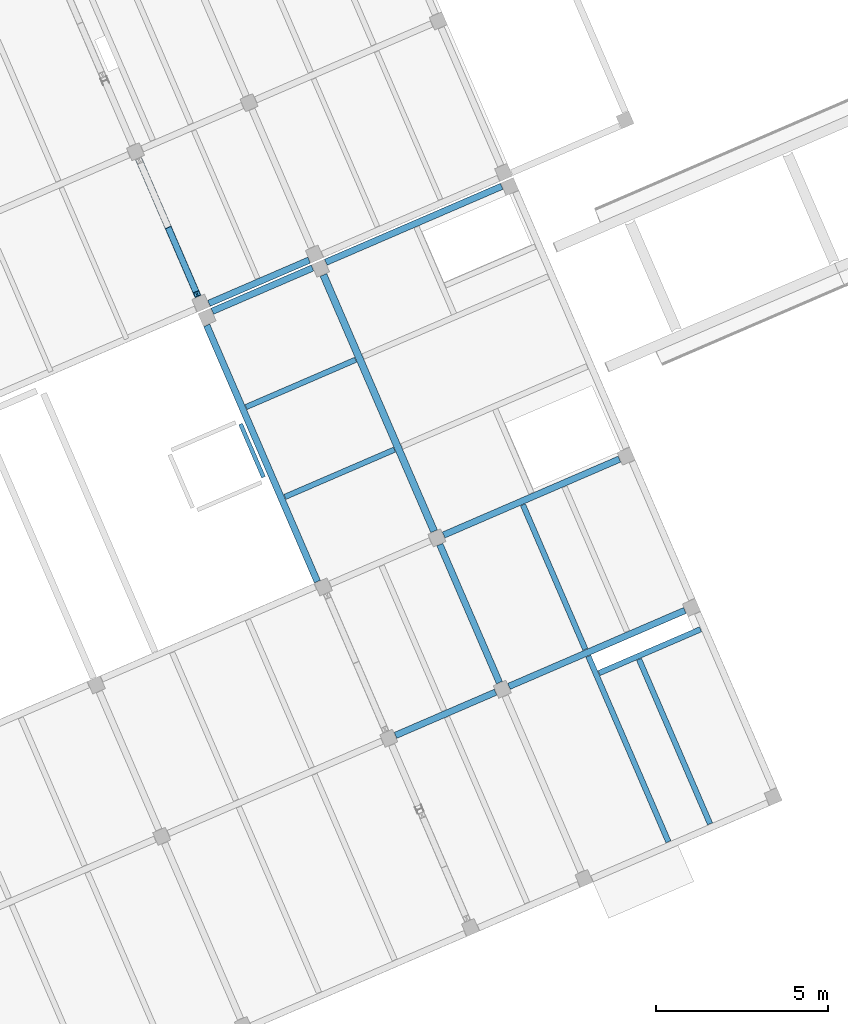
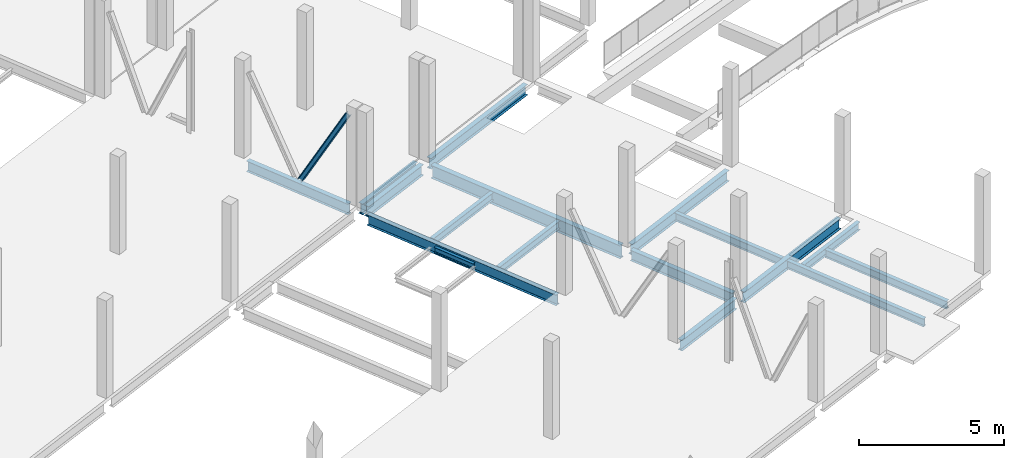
# One storey, part 12 of 24: 17 beams, 1 member.
"""IFC4 building model written with IfcOpenShell, lengths in metres."""

from ifc_helpers import new_model, entity, si_unit, converted_unit, derived_unit, direction, frame, origin, place, context, subcontext, project, spatial, line, arc, indexed_curve, outline, extrude, source, transform, mapped, material, type_object, type_shapes, element, save


model = new_model("IFC4")

# Units and contexts
model_context = context("Model", 3, precision=1e-05, world=origin(), true_north=direction((6.12323399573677e-17, 1.0)))
body_context = subcontext(model_context, "Body", "Model", "MODEL_VIEW")
ifc_project = project(units=[si_unit("LENGTHUNIT", "METRE"), si_unit("AREAUNIT", "SQUARE_METRE"), si_unit("VOLUMEUNIT", "CUBIC_METRE"), converted_unit("PLANEANGLEUNIT", "DEGREE", entity("IfcPlaneAngleMeasure", 0.0174532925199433), si_unit("PLANEANGLEUNIT", "RADIAN"), dimensions=[0, 0, 0, 0, 0, 0, 0]), si_unit("MASSUNIT", "GRAM", prefix="KILO"), derived_unit("MOMENTOFINERTIAUNIT", [(si_unit("LENGTHUNIT", "METRE"), 4)]), derived_unit("LINEARFORCEUNIT", [(si_unit("MASSUNIT", "GRAM", prefix="KILO"), 1), (si_unit("TIMEUNIT", "SECOND"), -2)]), derived_unit("WARPINGCONSTANTUNIT", [(si_unit("LENGTHUNIT", "METRE"), 6)]), derived_unit("THERMALTRANSMITTANCEUNIT", [(si_unit("MASSUNIT", "GRAM", prefix="KILO"), 1), (si_unit("THERMODYNAMICTEMPERATUREUNIT", "KELVIN"), -1), (si_unit("TIMEUNIT", "SECOND"), -3)]), derived_unit("USERDEFINED", [(si_unit("MASSUNIT", "GRAM", prefix="KILO"), 1), (si_unit("TIMEUNIT", "SECOND"), -2), (si_unit("THERMODYNAMICTEMPERATUREUNIT", "KELVIN"), -1)]), derived_unit("THERMALRESISTANCEUNIT", [(si_unit("MASSUNIT", "GRAM", prefix="KILO"), -1), (si_unit("TIMEUNIT", "SECOND"), 3), (si_unit("THERMODYNAMICTEMPERATUREUNIT", "KELVIN"), 1)])], contexts=[model_context])

# Site, building, storey
site_placement = place(None, origin())
site = spatial("IfcSite", under=ifc_project, at=site_placement, Name="Default", CompositionType="ELEMENT")
building_placement = place(site_placement, frame((12.6613425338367, -82.5732315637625, 317.15), z_axis=(0.0, 0.0, 1.0), x_axis=(-0.396377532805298, 0.918087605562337, 0.0)))
building = spatial("IfcBuilding", under=site, at=building_placement, Name="CESFAM Coyhaique", CompositionType="ELEMENT")
storey_placement = place(building_placement, frame((0.0, 0.0, 4.20000000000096)))
storey = spatial("IfcBuildingStorey", under=building, at=storey_placement, Name="Nivel 2", CompositionType="ELEMENT", Elevation=4.20000000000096)

# Beams
ifc_material = material(Name="Steel, 45-345", Category="Metal")
beam_type_1 = type_object("IfcBeamType", Name="M_W Shapes:W450X190mm", PredefinedType="BEAM", material=ifc_material)
shared_shape_1 = source(origin(), body_context, "Body", "SweptSolid", [
    extrude(outline(indexed_curve([(-0.225, -0.0950000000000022), (-0.215350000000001, -0.0950000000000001), (-0.21535, -0.0105700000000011), (-0.213109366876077, -0.00516063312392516), (-0.2077, -0.00292000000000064), (0.207699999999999, -0.00292000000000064), (0.213109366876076, -0.00516063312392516), (0.215349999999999, -0.0105700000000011), (0.215349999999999, -0.0950000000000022), (0.225, -0.0950000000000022), (0.225, 0.0949999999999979), (0.215349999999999, 0.0949999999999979), (0.215349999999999, 0.0105699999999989), (0.213109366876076, 0.00516063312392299), (0.207699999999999, 0.00291999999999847), (-0.2077, 0.00291999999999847), (-0.213109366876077, 0.00516063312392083), (-0.215350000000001, 0.0105699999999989), (-0.215350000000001, 0.0949999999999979), (-0.225, 0.0949999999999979)], segments=[line(1, 2, 3), arc(3, 4, 5), line(5, 6), arc(6, 7, 8), line(8, 9, 10, 11, 12, 13), arc(13, 14, 15), line(15, 16), arc(16, 17, 18), line(18, 19, 20, 1)], self_intersect=False)), frame((15.1815534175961, -11.4971495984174, 3.82500000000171), z_axis=(1.0, 0.0, 0.0), x_axis=(0.0, 0.0, -1.0)), (0.0, 0.0, 1.0), 8.1246),
])
type_shapes(beam_type_1, [shared_shape_1])
beam_1_placement = place(storey_placement, frame((0.0, 0.0, -4.20000000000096)))
element("IfcBeam", 1, at=beam_1_placement, inside=storey, type_object=beam_type_1, Name="M_W Shapes:W450X190mm", ObjectType="M_W Shapes:W450X190mm", PredefinedType="BEAM", context=body_context, shape_type="MappedRepresentation", body=[
    mapped(shared_shape_1, transform((0.0, 0.0, 0.0), scale=1.0)),
])
beam_type_2 = type_object("IfcBeamType", Name="M_W Shapes:W450X190mm", PredefinedType="BEAM", material=ifc_material)
shared_shape_2 = source(origin(), body_context, "Body", "SweptSolid", [
    extrude(outline(indexed_curve([(-0.225, -0.0950000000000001), (-0.215350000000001, -0.0949999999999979), (-0.21535, -0.0105699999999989), (-0.213109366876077, -0.00516063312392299), (-0.2077, -0.00291999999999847), (0.207699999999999, -0.00291999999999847), (0.213109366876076, -0.00516063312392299), (0.215349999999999, -0.0105699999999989), (0.215349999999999, -0.0950000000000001), (0.225, -0.0950000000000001), (0.225, 0.0950000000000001), (0.215349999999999, 0.0950000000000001), (0.215349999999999, 0.0105700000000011), (0.213109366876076, 0.00516063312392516), (0.207699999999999, 0.00292000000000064), (-0.2077, 0.00292000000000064), (-0.213109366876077, 0.00516063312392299), (-0.215350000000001, 0.0105700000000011), (-0.215350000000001, 0.0950000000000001), (-0.225, 0.0950000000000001)], segments=[line(1, 2, 3), arc(3, 4, 5), line(5, 6), arc(6, 7, 8), line(8, 9, 10, 11, 12, 13), arc(13, 14, 15), line(15, 16), arc(16, 17, 18), line(18, 19, 20, 1)], self_intersect=False)), frame((24.1815534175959, -11.5971495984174, 3.82500000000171), z_axis=(1.0, 0.0, 0.0), x_axis=(0.0, 0.0, -1.0)), (0.0, 0.0, 1.0), 4.3746),
])
type_shapes(beam_type_2, [shared_shape_2])
beam_2_placement = place(storey_placement, frame((0.0, 0.0, -4.20000000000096)))
element("IfcBeam", 2, at=beam_2_placement, inside=storey, type_object=beam_type_2, Name="M_W Shapes:W450X190mm", ObjectType="M_W Shapes:W450X190mm", PredefinedType="BEAM", context=body_context, shape_type="MappedRepresentation", body=[
    mapped(shared_shape_2, transform((0.0, 0.0, 0.0), scale=1.0)),
])
beam_type_3 = type_object("IfcBeamType", Name="M_W Shapes:W450X190mm", PredefinedType="BEAM", material=ifc_material)
shared_shape_3 = source(origin(), body_context, "Body", "SweptSolid", [
    extrude(outline(indexed_curve([(-0.0950000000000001, -0.225000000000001), (0.0950000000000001, -0.225000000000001), (0.0950000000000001, -0.21535), (0.0105700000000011, -0.21535), (0.00516063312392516, -0.213109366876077), (0.00292000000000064, -0.2077), (0.00292000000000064, 0.207699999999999), (0.00516063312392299, 0.213109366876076), (0.0105700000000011, 0.21535), (0.0950000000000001, 0.21535), (0.0950000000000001, 0.224999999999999), (-0.0950000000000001, 0.224999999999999), (-0.0949999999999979, 0.21535), (-0.0105699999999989, 0.215349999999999), (-0.00516063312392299, 0.213109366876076), (-0.00291999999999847, 0.207699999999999), (-0.00291999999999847, -0.2077), (-0.00516063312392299, -0.213109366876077), (-0.0105699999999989, -0.21535), (-0.0950000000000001, -0.21535)], segments=[line(1, 2, 3, 4), arc(4, 5, 6), line(6, 7), arc(7, 8, 9), line(9, 10, 11, 12, 13, 14), arc(14, 15, 16), line(16, 17), arc(17, 18, 19), line(19, 20, 1)], self_intersect=False)), frame((10.1688534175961, -14.9844495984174, 3.82500000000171), z_axis=(0.0, 1.0, 0.0), x_axis=(-1.0, 0.0, 0.0)), (0.0, 0.0, 1.0), 3.1746),
])
type_shapes(beam_type_3, [shared_shape_3])
beam_3_placement = place(storey_placement, frame((0.0, 0.0, -4.20000000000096)))
element("IfcBeam", 3, at=beam_3_placement, inside=storey, type_object=beam_type_3, Name="M_W Shapes:W450X190mm", ObjectType="M_W Shapes:W450X190mm", PredefinedType="BEAM", context=body_context, shape_type="MappedRepresentation", body=[
    mapped(shared_shape_3, transform((0.0, 0.0, 0.0), scale=1.0)),
])
beam_type_4 = type_object("IfcBeamType", Name="M_W Shapes:W450X190mm", PredefinedType="BEAM", material=ifc_material)
shared_shape_4 = source(origin(), body_context, "Body", "SweptSolid", [
    extrude(outline(indexed_curve([(-0.0950000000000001, -0.225000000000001), (0.0950000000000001, -0.225000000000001), (0.0950000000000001, -0.21535), (0.0105699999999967, -0.21535), (0.00516063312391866, -0.213109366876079), (0.00291999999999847, -0.2077), (0.00291999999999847, 0.207699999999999), (0.00516063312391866, 0.213109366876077), (0.0105700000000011, 0.21535), (0.0950000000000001, 0.21535), (0.0950000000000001, 0.224999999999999), (-0.0950000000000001, 0.224999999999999), (-0.0950000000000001, 0.21535), (-0.0105700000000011, 0.215349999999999), (-0.00516063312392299, 0.213109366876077), (-0.0029200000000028, 0.207699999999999), (-0.0029200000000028, -0.2077), (-0.00516063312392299, -0.213109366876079), (-0.0105700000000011, -0.21535), (-0.0950000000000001, -0.21535)], segments=[line(1, 2, 3, 4), arc(4, 5, 6), line(6, 7), arc(7, 8, 9), line(9, 10, 11, 12, 13, 14), arc(14, 15, 16), line(16, 17), arc(17, 18, 19), line(19, 20, 1)], self_intersect=False)), frame((23.8688534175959, -14.9844495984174, 3.82500000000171), z_axis=(0.0, 1.0, 0.0), x_axis=(-1.0, 0.0, 0.0)), (0.0, 0.0, 1.0), 3.1746),
])
type_shapes(beam_type_4, [shared_shape_4])
beam_4_placement = place(storey_placement, frame((0.0, 0.0, -4.20000000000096)))
element("IfcBeam", 4, at=beam_4_placement, inside=storey, type_object=beam_type_4, Name="M_W Shapes:W450X190mm", ObjectType="M_W Shapes:W450X190mm", PredefinedType="BEAM", context=body_context, shape_type="MappedRepresentation", body=[
    mapped(shared_shape_4, transform((0.0, 0.0, 0.0), scale=1.0)),
])
beam_type_5 = type_object("IfcBeamType", Name="M_W Shapes:W450X190mm", PredefinedType="BEAM", material=ifc_material)
shared_shape_5 = source(origin(), body_context, "Body", "SweptSolid", [
    extrude(outline(indexed_curve([(-0.225, -0.0949999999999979), (-0.215350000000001, -0.0949999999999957), (-0.21535, -0.0105699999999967), (-0.213109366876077, -0.00516063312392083), (-0.2077, -0.0029199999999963), (0.207699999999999, -0.0029199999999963), (0.213109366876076, -0.00516063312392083), (0.215349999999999, -0.0105699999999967), (0.215349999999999, -0.0949999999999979), (0.225, -0.0949999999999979), (0.225, 0.0950000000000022), (0.215349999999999, 0.0950000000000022), (0.215349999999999, 0.0105700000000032), (0.213109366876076, 0.00516063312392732), (0.207699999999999, 0.0029200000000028), (-0.2077, 0.0029200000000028), (-0.213109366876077, 0.00516063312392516), (-0.215350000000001, 0.0105700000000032), (-0.215350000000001, 0.0950000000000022), (-0.225, 0.0950000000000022)], segments=[line(1, 2, 3), arc(3, 4, 5), line(5, 6), arc(6, 7, 8), line(8, 9, 10, 11, 12, 13), arc(13, 14, 15), line(15, 16), arc(16, 17, 18), line(18, 19, 20, 1)], self_intersect=False)), frame((10.3815534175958, -15.1971495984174, 3.82500000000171), z_axis=(1.0, 0.0, 0.0), x_axis=(0.0, 0.0, -1.0)), (0.0, 0.0, 1.0), 4.3746),
])
type_shapes(beam_type_5, [shared_shape_5])
beam_5_placement = place(storey_placement, frame((0.0, 0.0, -4.20000000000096)))
element("IfcBeam", 5, at=beam_5_placement, inside=storey, type_object=beam_type_5, Name="M_W Shapes:W450X190mm", ObjectType="M_W Shapes:W450X190mm", PredefinedType="BEAM", context=body_context, shape_type="MappedRepresentation", body=[
    mapped(shared_shape_5, transform((0.0, 0.0, 0.0), scale=1.0)),
])
beam_type_6 = type_object("IfcBeamType", Name="M_W Shapes:W550X210mm", PredefinedType="BEAM", material=ifc_material)
shared_shape_6 = source(origin(), body_context, "Body", "SweptSolid", [
    extrude(outline(indexed_curve([(-0.274999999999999, -0.104999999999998), (-0.26535, -0.104999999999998), (-0.26535, -0.0105699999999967), (-0.263109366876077, -0.00516063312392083), (-0.2577, -0.0029199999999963), (0.2577, -0.0029199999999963), (0.263109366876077, -0.00516063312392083), (0.26535, -0.0105699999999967), (0.26535, -0.104999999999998), (0.275, -0.104999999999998), (0.275, 0.105000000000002), (0.26535, 0.105000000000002), (0.26535, 0.0105700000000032), (0.263109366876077, 0.00516063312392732), (0.2577, 0.0029200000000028), (-0.2577, 0.0029200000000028), (-0.263109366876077, 0.00516063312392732), (-0.26535, 0.0105700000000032), (-0.26535, 0.105000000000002), (-0.274999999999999, 0.105000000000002)], segments=[line(1, 2, 3), arc(3, 4, 5), line(5, 6), arc(6, 7, 8), line(8, 9, 10, 11, 12, 13), arc(13, 14, 15), line(15, 16), arc(16, 17, 18), line(18, 19, 20, 1)], self_intersect=False)), frame((15.1815534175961, -15.1971495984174, 3.77500000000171), z_axis=(1.0, 0.0, 0.0), x_axis=(0.0, 0.0, -1.0)), (0.0, 0.0, 1.0), 8.1246),
])
type_shapes(beam_type_6, [shared_shape_6])
beam_6_placement = place(storey_placement, frame((0.0, 0.0, -4.20000000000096)))
element("IfcBeam", 6, at=beam_6_placement, inside=storey, type_object=beam_type_6, Name="M_W Shapes:W550X210mm", ObjectType="M_W Shapes:W550X210mm", PredefinedType="BEAM", context=body_context, shape_type="MappedRepresentation", body=[
    mapped(shared_shape_6, transform((0.0, 0.0, 0.0), scale=1.0)),
])
beam_type_7 = type_object("IfcBeamType", Name="M_W Shapes:W450X190mm", PredefinedType="BEAM", material=ifc_material)
shared_shape_7 = source(origin(), body_context, "Body", "SweptSolid", [
    extrude(outline(indexed_curve([(-0.0950000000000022, -0.225000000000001), (0.0949999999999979, -0.225000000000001), (0.0949999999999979, -0.21535), (0.0105699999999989, -0.21535), (0.00516063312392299, -0.213109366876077), (0.00291999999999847, -0.2077), (0.00291999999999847, 0.207699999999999), (0.00516063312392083, 0.213109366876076), (0.0105699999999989, 0.21535), (0.0949999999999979, 0.21535), (0.0949999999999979, 0.224999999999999), (-0.0950000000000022, 0.224999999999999), (-0.0950000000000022, 0.21535), (-0.0105700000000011, 0.215349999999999), (-0.00516063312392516, 0.213109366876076), (-0.00292000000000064, 0.207699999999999), (-0.00292000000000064, -0.2077), (-0.00516063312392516, -0.213109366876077), (-0.0105700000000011, -0.21535), (-0.0950000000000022, -0.21535)], segments=[line(1, 2, 3, 4), arc(4, 5, 6), line(6, 7), arc(7, 8, 9), line(9, 10, 11, 12, 13, 14), arc(14, 15, 16), line(16, 17), arc(17, 18, 19), line(19, 20, 1)], self_intersect=False)), frame((10.168853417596, -20.9844495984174, 3.82500000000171), z_axis=(0.0, 1.0, 0.0), x_axis=(-1.0, 0.0, 0.0)), (0.0, 0.0, 1.0), 5.5746),
])
type_shapes(beam_type_7, [shared_shape_7])
beam_7_placement = place(storey_placement, frame((0.0, 0.0, -4.20000000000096)))
element("IfcBeam", 7, at=beam_7_placement, inside=storey, type_object=beam_type_7, Name="M_W Shapes:W450X190mm", ObjectType="M_W Shapes:W450X190mm", PredefinedType="BEAM", context=body_context, shape_type="MappedRepresentation", body=[
    mapped(shared_shape_7, transform((0.0, 0.0, 0.0), scale=1.0)),
])
beam_type_8 = type_object("IfcBeamType", Name="M_W Shapes:W450X190mm", PredefinedType="BEAM", material=ifc_material)
shared_shape_8 = source(origin(), body_context, "Body", "SweptSolid", [
    extrude(outline(indexed_curve([(-0.0950000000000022, -0.225000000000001), (0.0949999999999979, -0.225000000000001), (0.0949999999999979, -0.21535), (0.0105699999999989, -0.21535), (0.00516063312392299, -0.213109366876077), (0.00291999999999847, -0.2077), (0.00291999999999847, 0.207699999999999), (0.00516063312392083, 0.213109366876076), (0.0105699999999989, 0.21535), (0.0949999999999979, 0.21535), (0.0949999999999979, 0.224999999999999), (-0.0950000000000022, 0.224999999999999), (-0.0950000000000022, 0.21535), (-0.0105700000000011, 0.215349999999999), (-0.00516063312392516, 0.213109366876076), (-0.00292000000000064, 0.207699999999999), (-0.00292000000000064, -0.2077), (-0.00516063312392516, -0.213109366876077), (-0.0105700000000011, -0.21535), (-0.0950000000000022, -0.21535)], segments=[line(1, 2, 3, 4), arc(4, 5, 6), line(6, 7), arc(7, 8, 9), line(9, 10, 11, 12, 13, 14), arc(14, 15, 16), line(16, 17), arc(17, 18, 19), line(19, 20, 1)], self_intersect=False)), frame((14.9688534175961, -20.9844495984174, 3.82500000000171), z_axis=(0.0, 1.0, 0.0), x_axis=(-1.0, 0.0, 0.0)), (0.0, 0.0, 1.0), 5.5746),
])
type_shapes(beam_type_8, [shared_shape_8])
beam_8_placement = place(storey_placement, frame((0.0, 0.0, -4.20000000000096)))
element("IfcBeam", 8, at=beam_8_placement, inside=storey, type_object=beam_type_8, Name="M_W Shapes:W450X190mm", ObjectType="M_W Shapes:W450X190mm", PredefinedType="BEAM", context=body_context, shape_type="MappedRepresentation", body=[
    mapped(shared_shape_8, transform((0.0, 0.0, 0.0), scale=1.0)),
])
beam_type_9 = type_object("IfcBeamType", Name="M_W Shapes:W450X190mm", PredefinedType="BEAM", material=ifc_material)
shared_shape_9 = source(origin(), body_context, "Body", "SweptSolid", [
    extrude(outline(indexed_curve([(-0.0950000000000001, -0.225000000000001), (0.0950000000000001, -0.225000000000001), (0.0950000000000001, -0.21535), (0.0105699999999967, -0.21535), (0.00516063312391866, -0.213109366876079), (0.00291999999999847, -0.2077), (0.00291999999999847, 0.207699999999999), (0.00516063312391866, 0.213109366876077), (0.0105700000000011, 0.21535), (0.0950000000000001, 0.21535), (0.0950000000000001, 0.224999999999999), (-0.0950000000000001, 0.224999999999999), (-0.0950000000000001, 0.21535), (-0.0105700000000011, 0.215349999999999), (-0.00516063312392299, 0.213109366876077), (-0.0029200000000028, 0.207699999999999), (-0.0029200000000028, -0.2077), (-0.00516063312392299, -0.213109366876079), (-0.0105700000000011, -0.21535), (-0.0950000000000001, -0.21535)], segments=[line(1, 2, 3, 4), arc(4, 5, 6), line(6, 7), arc(7, 8, 9), line(9, 10, 11, 12, 13, 14), arc(14, 15, 16), line(16, 17), arc(17, 18, 19), line(19, 20, 1)], self_intersect=False)), frame((23.6188534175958, -14.9844495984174, 3.82500000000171), z_axis=(0.0, 1.0, 0.0), x_axis=(-1.0, 0.0, 0.0)), (0.0, 0.0, 1.0), 3.1746),
])
type_shapes(beam_type_9, [shared_shape_9])
beam_9_placement = place(storey_placement, frame((0.0, 0.0, -4.20000000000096)))
element("IfcBeam", 9, at=beam_9_placement, inside=storey, type_object=beam_type_9, Name="M_W Shapes:W450X190mm", ObjectType="M_W Shapes:W450X190mm", PredefinedType="BEAM", context=body_context, shape_type="MappedRepresentation", body=[
    mapped(shared_shape_9, transform((0.0, 0.0, 0.0), scale=1.0)),
])
beam_type_10 = type_object("IfcBeamType", Name="M_W Shapes:W450X190mm", PredefinedType="BEAM", material=ifc_material)
shared_shape_10 = source(origin(), body_context, "Body", "SweptSolid", [
    extrude(outline(indexed_curve([(-0.0950000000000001, -0.225000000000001), (0.0950000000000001, -0.225000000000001), (0.0950000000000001, -0.21535), (0.0105699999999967, -0.21535), (0.00516063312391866, -0.213109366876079), (0.00291999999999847, -0.2077), (0.00291999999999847, 0.207699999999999), (0.00516063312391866, 0.213109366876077), (0.0105699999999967, 0.21535), (0.0950000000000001, 0.21535), (0.0950000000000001, 0.224999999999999), (-0.0950000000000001, 0.224999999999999), (-0.0950000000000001, 0.21535), (-0.0105700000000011, 0.215349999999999), (-0.00516063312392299, 0.213109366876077), (-0.0029200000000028, 0.207699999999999), (-0.0029200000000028, -0.2077), (-0.00516063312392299, -0.213109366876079), (-0.0105700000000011, -0.21535), (-0.0950000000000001, -0.21535)], segments=[line(1, 2, 3, 4), arc(4, 5, 6), line(6, 7), arc(7, 8, 9), line(9, 10, 11, 12, 13, 14), arc(14, 15, 16), line(16, 17), arc(17, 18, 19), line(19, 20, 1)], self_intersect=False)), frame((23.6188534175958, -20.9844495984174, 3.82500000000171), z_axis=(0.0, 1.0, 0.0), x_axis=(-1.0, 0.0, 0.0)), (0.0, 0.0, 1.0), 5.5746),
])
type_shapes(beam_type_10, [shared_shape_10])
beam_10_placement = place(storey_placement, frame((0.0, 0.0, -4.20000000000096)))
element("IfcBeam", 10, at=beam_10_placement, inside=storey, type_object=beam_type_10, Name="M_W Shapes:W450X190mm", ObjectType="M_W Shapes:W450X190mm", PredefinedType="BEAM", context=body_context, shape_type="MappedRepresentation", body=[
    mapped(shared_shape_10, transform((0.0, 0.0, 0.0), scale=1.0)),
])

# Member
member_type = type_object("IfcMemberType", Name="M_Double C-Channel:doble T HEB 180", PredefinedType="BRACE", material=ifc_material)
shared_shape_11 = source(origin(), body_context, "Body", "SweptSolid", [
    extrude(outline(indexed_curve([(-0.045425, -0.0899999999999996), (0.0445749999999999, -0.0899999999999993), (0.0397422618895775, -0.0783327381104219), (0.0280749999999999, -0.0735000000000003), (-0.0272249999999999, -0.0647413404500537), (-0.0272249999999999, 0.0647413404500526), (0.0280750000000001, 0.0734999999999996), (0.0397422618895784, 0.078332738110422), (0.044575, 0.0900000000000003), (-0.045425, 0.0900000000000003)], segments=[line(1, 2), arc(2, 3, 4), line(4, 5, 6, 7), arc(7, 8, 9), line(9, 10, 1)], self_intersect=False)), frame((-2.4277149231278, -0.0454249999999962, 0.0), z_axis=(1.0, 0.0, 0.0), x_axis=(0.0, -1.0, 0.0)), (0.0, 0.0, 1.0), 4.1299440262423),
    extrude(outline(indexed_curve([(-0.0899999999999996, -0.045425), (0.0900000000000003, -0.045425), (0.0900000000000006, 0.044575), (0.0783327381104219, 0.0397422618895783), (0.0734999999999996, 0.028075), (0.0647413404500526, -0.0272249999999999), (-0.0647413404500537, -0.0272249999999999), (-0.0735000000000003, 0.0280749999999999), (-0.0783327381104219, 0.0397422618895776), (-0.0899999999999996, 0.0445749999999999)], segments=[line(1, 2, 3), arc(3, 4, 5), line(5, 6, 7, 8), arc(8, 9, 10), line(10, 1)], self_intersect=False)), frame((-2.4277149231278, 0.0454250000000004, 0.0), z_axis=(1.0, 0.0, 0.0), x_axis=(0.0, 0.0, -1.0)), (0.0, 0.0, 1.0), 4.1299440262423),
])
type_shapes(member_type, [shared_shape_11])
member_placement = place(storey_placement, frame((25.0904855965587, -11.5971495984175, 2.0807452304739), z_axis=(0.87075356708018, 0.0, 0.491719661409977), x_axis=(-0.491719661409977, 0.0, 0.87075356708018)))
element("IfcMember", 11, at=member_placement, inside=storey, type_object=member_type, Name="M_Double C-Channel:doble T HEB 180", ObjectType="M_Double C-Channel:doble T HEB 180", PredefinedType="BRACE", context=body_context, shape_type="MappedRepresentation", body=[
    mapped(shared_shape_11, transform((0.0, 0.0, 0.0), scale=1.0)),
])

# Beams
beam_type_11 = type_object("IfcBeamType", Name="M_W Shapes:W330X160mm", PredefinedType="BEAM", material=ifc_material)
shared_shape_12 = source(origin(), body_context, "Body", "SweptSolid", [
    extrude(outline(indexed_curve([(-0.0799999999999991, -0.165), (0.0800000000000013, -0.165), (0.0800000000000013, -0.15535), (0.0105700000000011, -0.15535), (0.00516063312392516, -0.153109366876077), (0.00292000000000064, -0.1477), (0.00292000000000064, 0.1477), (0.00516063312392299, 0.153109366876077), (0.0105700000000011, 0.15535), (0.0800000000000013, 0.15535), (0.0800000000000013, 0.164999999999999), (-0.0799999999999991, 0.164999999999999), (-0.0799999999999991, 0.15535), (-0.0105699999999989, 0.15535), (-0.00516063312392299, 0.153109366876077), (-0.00291999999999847, 0.1477), (-0.00291999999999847, -0.1477), (-0.00516063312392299, -0.153109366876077), (-0.0105699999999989, -0.15535), (-0.0799999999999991, -0.15535)], segments=[line(1, 2, 3, 4), arc(4, 5, 6), line(6, 7), arc(7, 8, 9), line(9, 10, 11, 12, 13, 14), arc(14, 15, 16), line(16, 17), arc(17, 18, 19), line(19, 20, 1)], self_intersect=False)), frame((17.8188534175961, -15.0794495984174, 3.88500000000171), z_axis=(0.0, 1.0, 0.0), x_axis=(-1.0, 0.0, 0.0)), (0.0, 0.0, 1.0), 3.4746),
])
type_shapes(beam_type_11, [shared_shape_12])
beam_11_placement = place(storey_placement, frame((0.0, 0.0, -4.20000000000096)))
element("IfcBeam", 12, at=beam_11_placement, inside=storey, type_object=beam_type_11, Name="M_W Shapes:W330X160mm", ObjectType="M_W Shapes:W330X160mm", PredefinedType="BEAM", context=body_context, shape_type="MappedRepresentation", body=[
    mapped(shared_shape_12, transform((0.0, 0.0, 0.0), scale=1.0)),
])
beam_type_12 = type_object("IfcBeamType", Name="M_W Shapes:W330X160mm", PredefinedType="BEAM", material=ifc_material)
shared_shape_13 = source(origin(), body_context, "Body", "SweptSolid", [
    extrude(outline(indexed_curve([(-0.0799999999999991, -0.165), (0.0800000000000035, -0.165), (0.0800000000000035, -0.15535), (0.0105700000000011, -0.155349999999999), (0.00516063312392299, -0.153109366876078), (0.0029200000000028, -0.1477), (0.0029200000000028, 0.1477), (0.00516063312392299, 0.153109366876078), (0.0105700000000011, 0.15535), (0.0800000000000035, 0.15535), (0.0800000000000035, 0.164999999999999), (-0.0799999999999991, 0.164999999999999), (-0.0799999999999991, 0.15535), (-0.0105699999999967, 0.155349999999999), (-0.00516063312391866, 0.153109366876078), (-0.00291999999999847, 0.1477), (-0.00291999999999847, -0.1477), (-0.00516063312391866, -0.153109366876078), (-0.0105699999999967, -0.15535), (-0.0799999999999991, -0.15535)], segments=[line(1, 2, 3, 4), arc(4, 5, 6), line(6, 7), arc(7, 8, 9), line(9, 10, 11, 12, 13, 14), arc(14, 15, 16), line(16, 17), arc(17, 18, 19), line(19, 20, 1)], self_intersect=False)), frame((20.6688534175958, -15.0794495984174, 3.88500000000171), z_axis=(0.0, 1.0, 0.0), x_axis=(-1.0, 0.0, 0.0)), (0.0, 0.0, 1.0), 3.4746),
])
type_shapes(beam_type_12, [shared_shape_13])
beam_12_placement = place(storey_placement, frame((0.0, 0.0, -4.20000000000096)))
element("IfcBeam", 13, at=beam_12_placement, inside=storey, type_object=beam_type_12, Name="M_W Shapes:W330X160mm", ObjectType="M_W Shapes:W330X160mm", PredefinedType="BEAM", context=body_context, shape_type="MappedRepresentation", body=[
    mapped(shared_shape_13, transform((0.0, 0.0, 0.0), scale=1.0)),
])
beam_type_13 = type_object("IfcBeamType", Name="M_W Shapes:W330X160mm", PredefinedType="BEAM", material=ifc_material)
shared_shape_14 = source(origin(), body_context, "Body", "SweptSolid", [
    extrude(outline(indexed_curve([(-0.164999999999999, -0.0799999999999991), (-0.15535, -0.0799999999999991), (-0.15535, -0.0105699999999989), (-0.153109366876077, -0.00516063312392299), (-0.1477, -0.00291999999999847), (0.1477, -0.00291999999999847), (0.153109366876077, -0.00516063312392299), (0.15535, -0.0105699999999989), (0.15535, -0.0799999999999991), (0.165, -0.0799999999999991), (0.165, 0.0800000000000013), (0.15535, 0.0800000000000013), (0.15535, 0.0105700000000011), (0.153109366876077, 0.00516063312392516), (0.1477, 0.00292000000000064), (-0.1477, 0.00292000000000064), (-0.153109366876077, 0.00516063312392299), (-0.15535, 0.0105700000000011), (-0.15535, 0.0800000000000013), (-0.164999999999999, 0.0800000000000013)], segments=[line(1, 2, 3), arc(3, 4, 5), line(5, 6), arc(6, 7, 8), line(8, 9, 10, 11, 12, 13), arc(13, 14, 15), line(15, 16), arc(16, 17, 18), line(18, 19, 20, 1)], self_intersect=False)), frame((4.17655341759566, -17.8771495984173, 3.88500000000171), z_axis=(1.0, 0.0, 0.0), x_axis=(0.0, 0.0, -1.0)), (0.0, 0.0, 1.0), 5.8846),
])
type_shapes(beam_type_13, [shared_shape_14])
beam_13_placement = place(storey_placement, frame((0.0, 0.0, -4.20000000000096)))
element("IfcBeam", 14, at=beam_13_placement, inside=storey, type_object=beam_type_13, Name="M_W Shapes:W330X160mm", ObjectType="M_W Shapes:W330X160mm", PredefinedType="BEAM", context=body_context, shape_type="MappedRepresentation", body=[
    mapped(shared_shape_14, transform((0.0, 0.0, 0.0), scale=1.0)),
])
beam_type_14 = type_object("IfcBeamType", Name="M_W Shapes:W330X160mm", PredefinedType="BEAM", material=ifc_material)
shared_shape_15 = source(origin(), body_context, "Body", "SweptSolid", [
    extrude(outline(indexed_curve([(-0.164999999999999, -0.0799999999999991), (-0.15535, -0.0799999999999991), (-0.15535, -0.0105699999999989), (-0.153109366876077, -0.00516063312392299), (-0.1477, -0.00291999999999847), (0.1477, -0.00291999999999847), (0.153109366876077, -0.00516063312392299), (0.15535, -0.0105700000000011), (0.15535, -0.0799999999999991), (0.165, -0.0799999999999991), (0.165000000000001, 0.0800000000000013), (0.15535, 0.0799999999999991), (0.15535, 0.0105700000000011), (0.153109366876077, 0.00516063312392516), (0.1477, 0.00292000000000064), (-0.1477, 0.00292000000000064), (-0.153109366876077, 0.00516063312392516), (-0.15535, 0.0105700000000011), (-0.15535, 0.0800000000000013), (-0.164999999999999, 0.0799999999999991)], segments=[line(1, 2, 3), arc(3, 4, 5), line(5, 6), arc(6, 7, 8), line(8, 9, 10, 11, 12, 13), arc(13, 14, 15), line(15, 16), arc(16, 17, 18), line(18, 19, 20, 1)], self_intersect=False)), frame((10.2765534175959, -17.8771495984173, 3.88500000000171), z_axis=(1.0, 0.0, 0.0), x_axis=(0.0, 0.0, -1.0)), (0.0, 0.0, 1.0), 4.5846),
])
type_shapes(beam_type_14, [shared_shape_15])
beam_14_placement = place(storey_placement, frame((0.0, 0.0, -4.20000000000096)))
element("IfcBeam", 15, at=beam_14_placement, inside=storey, type_object=beam_type_14, Name="M_W Shapes:W330X160mm", ObjectType="M_W Shapes:W330X160mm", PredefinedType="BEAM", context=body_context, shape_type="MappedRepresentation", body=[
    mapped(shared_shape_15, transform((0.0, 0.0, 0.0), scale=1.0)),
])
beam_type_15 = type_object("IfcBeamType", Name="M_W Shapes:W330X160mm", PredefinedType="BEAM", material=ifc_material)
shared_shape_16 = source(origin(), body_context, "Body", "SweptSolid", [
    extrude(outline(indexed_curve([(-0.164999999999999, -0.0799999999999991), (-0.15535, -0.0799999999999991), (-0.15535, -0.0105699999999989), (-0.153109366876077, -0.00516063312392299), (-0.1477, -0.00291999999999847), (0.1477, -0.00291999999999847), (0.153109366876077, -0.00516063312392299), (0.15535, -0.0105700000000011), (0.15535, -0.0799999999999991), (0.165, -0.0799999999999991), (0.165000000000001, 0.0800000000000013), (0.15535, 0.0799999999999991), (0.15535, 0.0105700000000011), (0.153109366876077, 0.00516063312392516), (0.1477, 0.00292000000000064), (-0.1477, 0.00292000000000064), (-0.153109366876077, 0.00516063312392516), (-0.15535, 0.0105700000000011), (-0.15535, 0.0800000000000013), (-0.164999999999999, 0.0799999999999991)], segments=[line(1, 2, 3), arc(3, 4, 5), line(5, 6), arc(6, 7, 8), line(8, 9, 10, 11, 12, 13), arc(13, 14, 15), line(15, 16), arc(16, 17, 18), line(18, 19, 20, 1)], self_intersect=False)), frame((4.17656645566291, -19.1971495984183, 3.88500000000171), z_axis=(1.0, 0.0, 0.0), x_axis=(0.0, 0.0, -1.0)), (0.0, 0.0, 1.0), 5.2152),
])
type_shapes(beam_type_15, [shared_shape_16])
beam_15_placement = place(storey_placement, frame((0.0, 0.0, -4.20000000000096)))
element("IfcBeam", 16, at=beam_15_placement, inside=storey, type_object=beam_type_15, Name="M_W Shapes:W330X160mm", ObjectType="M_W Shapes:W330X160mm", PredefinedType="BEAM", context=body_context, shape_type="MappedRepresentation", body=[
    mapped(shared_shape_16, transform((0.0, 0.0, 0.0), scale=1.0)),
])
beam_type_16 = type_object("IfcBeamType", Name="M_W Shapes:W330X160mm", PredefinedType="BEAM", material=ifc_material)
shared_shape_17 = source(origin(), body_context, "Body", "SweptSolid", [
    extrude(outline(indexed_curve([(-0.0799999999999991, -0.165), (0.0800000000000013, -0.165000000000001), (0.0800000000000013, -0.15535), (0.0105700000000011, -0.15535), (0.00516063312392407, -0.153109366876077), (0.00292000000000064, -0.1477), (0.00292000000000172, 0.1477), (0.00516063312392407, 0.153109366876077), (0.01057, 0.15535), (0.0800000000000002, 0.15535), (0.0800000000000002, 0.164999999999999), (-0.0799999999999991, 0.164999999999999), (-0.0799999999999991, 0.15535), (-0.0105699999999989, 0.15535), (-0.00516063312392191, 0.153109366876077), (-0.00291999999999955, 0.1477), (-0.00291999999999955, -0.1477), (-0.00516063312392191, -0.153109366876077), (-0.0105699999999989, -0.15535), (-0.0799999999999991, -0.15535)], segments=[line(1, 2, 3, 4), arc(4, 5, 6), line(6, 7), arc(7, 8, 9), line(9, 10, 11, 12, 13, 14), arc(14, 15, 16), line(16, 17), arc(17, 18, 19), line(19, 20, 1)], self_intersect=False)), frame((9.48447949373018, -21.1894498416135, 3.88500000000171), z_axis=(0.0, 1.0, 0.0), x_axis=(-1.0, 0.0, 0.0)), (0.0, 0.0, 1.0), 3.2196),
])
type_shapes(beam_type_16, [shared_shape_17])
beam_16_placement = place(storey_placement, frame((0.0, 0.0, -4.20000000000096)))
element("IfcBeam", 17, at=beam_16_placement, inside=storey, type_object=beam_type_16, Name="M_W Shapes:W330X160mm", ObjectType="M_W Shapes:W330X160mm", PredefinedType="BEAM", context=body_context, shape_type="MappedRepresentation", body=[
    mapped(shared_shape_17, transform((0.0, 0.0, 0.0), scale=1.0)),
])
beam_type_17 = type_object("IfcBeamType", Name="M_W Shapes:W220X120mm", PredefinedType="BEAM", material=ifc_material)
shared_shape_18 = source(origin(), body_context, "Body", "SweptSolid", [
    extrude(outline(indexed_curve([(-0.109999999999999, -0.0599999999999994), (-0.100349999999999, -0.0599999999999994), (-0.100349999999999, -0.0105699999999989), (-0.0981093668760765, -0.00516063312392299), (-0.0926999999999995, -0.00291999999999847), (0.0927, -0.00291999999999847), (0.098109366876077, -0.00516063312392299), (0.10035, -0.0105699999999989), (0.10035, -0.0599999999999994), (0.110000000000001, -0.0599999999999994), (0.110000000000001, 0.0600000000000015), (0.10035, 0.0600000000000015), (0.10035, 0.0105700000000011), (0.098109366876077, 0.00516063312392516), (0.0927, 0.00292000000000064), (-0.0926999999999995, 0.00292000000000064), (-0.0981093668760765, 0.00516063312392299), (-0.100349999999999, 0.0105700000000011), (-0.100349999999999, 0.0599999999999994), (-0.109999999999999, 0.0599999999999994)], segments=[line(1, 2, 3), arc(3, 4, 5), line(5, 6), arc(6, 7, 8), line(8, 9, 10, 11, 12, 13), arc(13, 14, 15), line(15, 16), arc(16, 17, 18), line(18, 19, 20, 1)], self_intersect=False)), frame((18.5917240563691, -11.262149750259, 3.94000000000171), z_axis=(1.0, 0.0, 0.0), x_axis=(0.0, 0.0, -1.0)), (0.0, 0.0, 1.0), 1.6872),
])
type_shapes(beam_type_17, [shared_shape_18])
beam_17_placement = place(storey_placement, frame((0.0, 0.0, -4.20000000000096)))
element("IfcBeam", 18, at=beam_17_placement, inside=storey, type_object=beam_type_17, Name="M_W Shapes:W220X120mm", ObjectType="M_W Shapes:W220X120mm", PredefinedType="BEAM", context=body_context, shape_type="MappedRepresentation", body=[
    mapped(shared_shape_18, transform((0.0, 0.0, 0.0), scale=1.0)),
])

save(model, "model.ifc")
